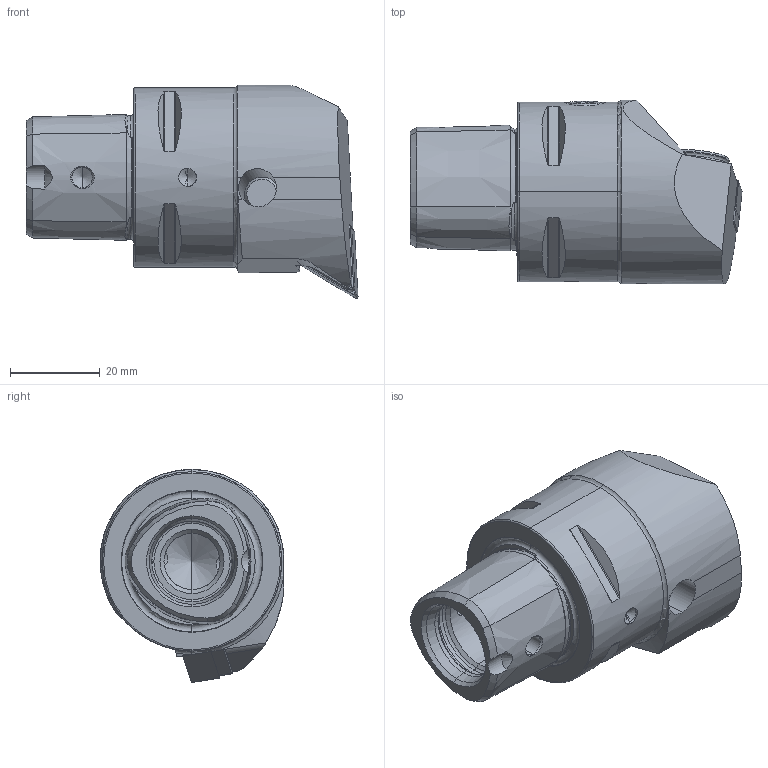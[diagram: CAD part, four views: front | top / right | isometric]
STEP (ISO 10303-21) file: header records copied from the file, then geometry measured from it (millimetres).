
FILE_DESCRIPTION (( 'STEP AP214' ), '1' );
FILE_NAME ('PS4.PDF.RUA.050-HP.STEP', '2020-09-11T11:43:34', ( '' ), ( '' ), 'SwSTEP 2.0', 'SolidWorks 2017', '' );
FILE_SCHEMA (( 'AUTOMOTIVE_DESIGN' ));
Length unit declared in the file: millimetre
Products named in the file (13): PS4.PDF.RUA.050-HP; WCD-ER4.101.017_A; CHP-ER1.015.006; CHP-ER1.008.011_A; WDF-ER3.101.000_A; PS4-PDF.RUA.050-HP_A; DIN 7991 - M5x15; DNMG150604; WDF-ER2.101.003_A; WCD-ER1.101.000; DIN 3771 - 13x1; CHP-ER1.015.006_A; ISO 8752 2x8
Assembly tree (12 placements, depth 3):
  PS4.PDF.RUA.050-HP
    PS4-PDF.RUA.050-HP_A
    WDF-ER3.101.000_A
    WCD-ER4.101.017_A
    WDF-ER2.101.003_A
    DNMG150604
    WCD-ER1.101.000
    CHP-ER1.008.011_A
    ISO 8752 2x8
    CHP-ER1.015.006
      CHP-ER1.015.006_A
      DIN 3771 - 13x1
      DIN 7991 - M5x15
Bounding box: 74 x 41 x 47.5 mm (x, y, z)
Volume: 56230.3 mm3; surface area: 19005.6 mm2
Topology: 11 solids, 11 shells, 462 faces, 1117 edges, 664 vertices
Faces by surface type: cone 140, plane 132, cylinder 117, torus 61, bspline 12
Entity records: 15263 total; most frequent: CARTESIAN_POINT 4159, DIRECTION 2225, ORIENTED_EDGE 2186, EDGE_CURVE 1093, AXIS2_PLACEMENT_3D 888, VERTEX_POINT 664, EDGE_LOOP 493, ADVANCED_FACE 462
